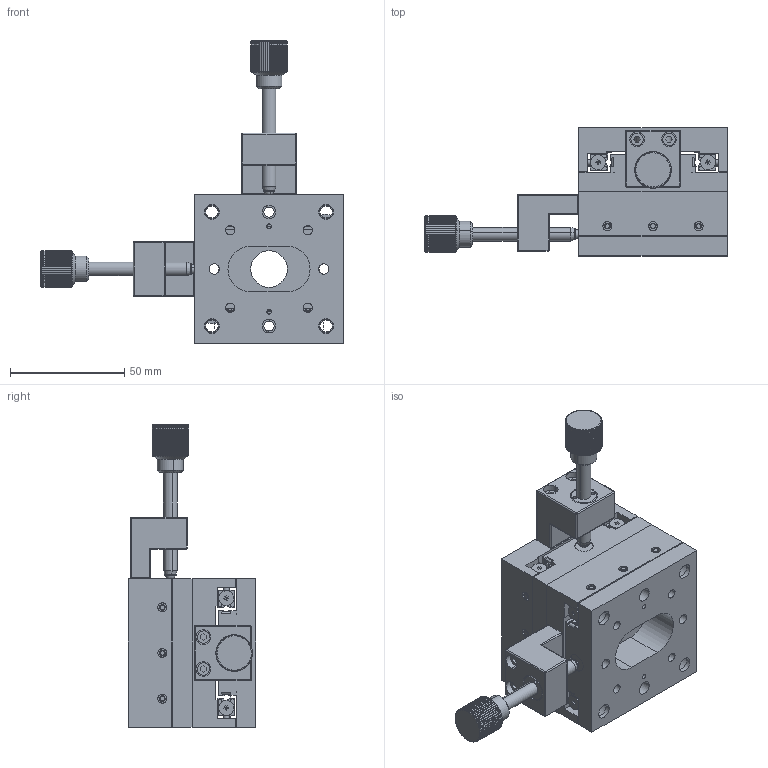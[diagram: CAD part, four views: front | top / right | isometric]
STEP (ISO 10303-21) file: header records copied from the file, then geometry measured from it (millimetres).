
FILE_DESCRIPTION (( 'STEP AP203' ), '1' );
FILE_NAME ('TC65HXY-1A.STEP', '2017-02-18T05:35:19', ( '' ), ( '' ), 'SwSTEP 2.0', 'SolidWorks 2012', '' );
FILE_SCHEMA (( 'CONFIG_CONTROL_DESIGN' ));
Length unit declared in the file: millimetre
Products named in the file (1): TC65HXY-1A
Bounding box: 132.5 x 56 x 132.5 mm (x, y, z)
Surface area: 67759.4 mm2 (no closed solid volume)
Topology: 0 solids, 77 shells, 1017 faces, 3056 edges, 2086 vertices
Faces by surface type: plane 563, cylinder 381, cone 48, sphere 21, torus 4
Entity records: 35322 total; most frequent: CARTESIAN_POINT 7971, DIRECTION 5647, ORIENTED_EDGE 5382, EDGE_CURVE 3031, VERTEX_POINT 2082, AXIS2_PLACEMENT_3D 2038, VECTOR 1571, LINE 1571
